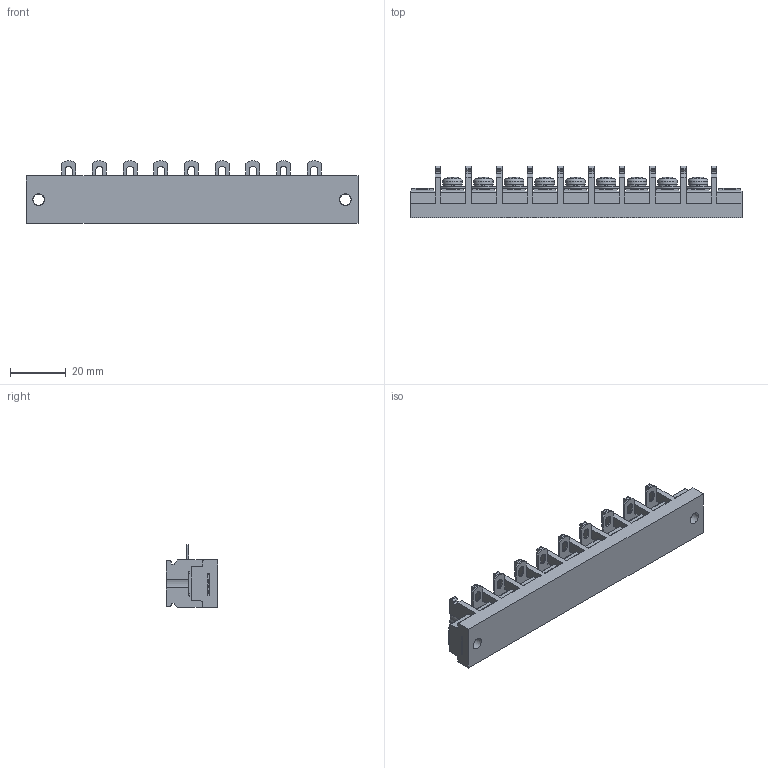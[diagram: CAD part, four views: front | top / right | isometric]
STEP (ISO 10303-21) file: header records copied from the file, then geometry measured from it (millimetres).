
FILE_DESCRIPTION(/* description */ ('Alibre Inc.'),/* implementation_level */ '2;1');
FILE_NAME(/* name */ 'export0',/* time_stamp */ '2015-10-19T19:34:23+09:00',/* author */ (''),/* organization */ (''),/* preprocessor_version */ 'ST-DEVELOPER v14',/* originating_system */ 'Alibre',/* authorisation */ '');
FILE_SCHEMA (('CONFIG_CONTROL_DESIGN'));
Length unit declared in the file: centimetre
Products named in the file (1): ID_1
Bounding box: 119 x 18.5 x 22.5 mm (x, y, z)
Volume: 22130.5 mm3; surface area: 13493.5 mm2
Topology: 1 solids, 1 shells, 1668 faces, 4652 edges, 3021 vertices
Faces by surface type: plane 1308, cylinder 193, bspline 104, cone 36, torus 18, sphere 9
Full cylindrical faces by diameter (mm): 4 x11, 4.2 x11, 6.5 x9, 7 x9
Entity records: 49694 total; most frequent: CARTESIAN_POINT 9999, ORIENTED_EDGE 9148, DIRECTION 6347, EDGE_CURVE 4574, VECTOR 3360, LINE 3360, VERTEX_POINT 2992, AXIS2_PLACEMENT_3D 2039
